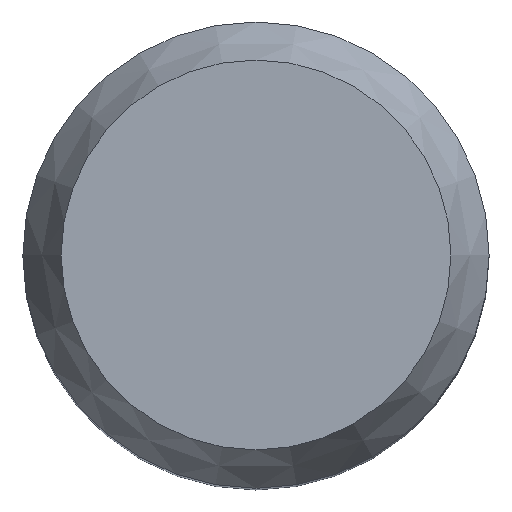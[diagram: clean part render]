
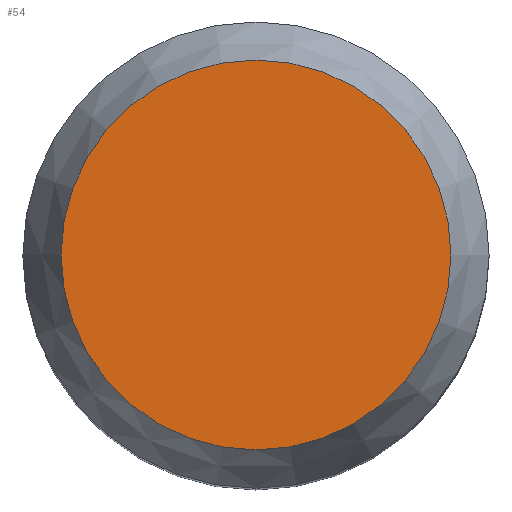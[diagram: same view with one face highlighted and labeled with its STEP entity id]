
A CAD part, top view. The second image highlights one B-rep face of the part: STEP entity #54.
In plain terms, the highlighted planar face has unit normal (0, 0, 1).
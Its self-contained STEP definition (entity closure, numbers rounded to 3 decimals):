
#15=PLANE('',#75);
#20=FACE_OUTER_BOUND('',#24,.T.);
#24=EDGE_LOOP('',(#49));
#30=CIRCLE('',#71,2.55);
#33=VERTEX_POINT('',#97);
#36=EDGE_CURVE('',#33,#33,#30,.T.);
#49=ORIENTED_EDGE('',*,*,#36,.F.);
#54=ADVANCED_FACE('',(#20),#15,.T.);
#71=AXIS2_PLACEMENT_3D('',#98,#81,#82);
#75=AXIS2_PLACEMENT_3D('',#106,#91,#92);
#81=DIRECTION('center_axis',(0.,0.,-1.));
#82=DIRECTION('ref_axis',(1.,0.,0.));
#91=DIRECTION('center_axis',(0.,0.,1.));
#92=DIRECTION('ref_axis',(1.,0.,0.));
#97=CARTESIAN_POINT('',(-2.55,0.,14.));
#98=CARTESIAN_POINT('Origin',(0.,0.,14.));
#106=CARTESIAN_POINT('Origin',(0.,0.,14.));
